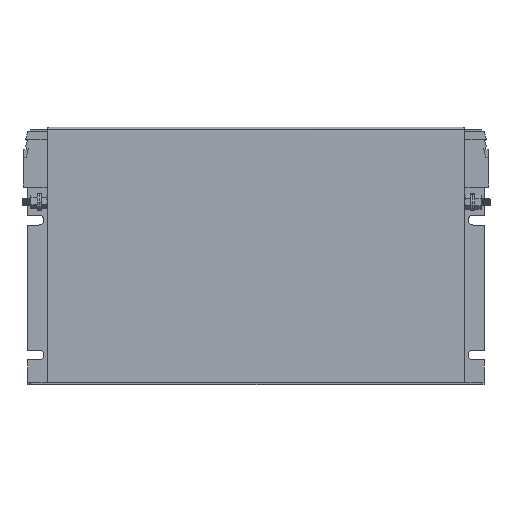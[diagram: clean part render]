
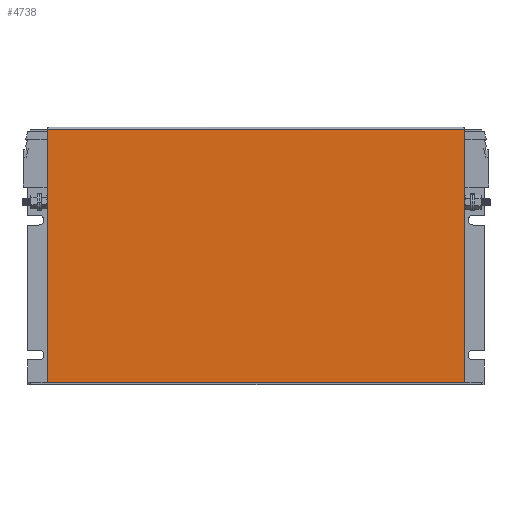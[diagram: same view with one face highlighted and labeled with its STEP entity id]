
A CAD part, top view. The second image highlights one B-rep face of the part: STEP entity #4738.
In plain terms, the highlighted planar face has unit normal (0, 0, 1).
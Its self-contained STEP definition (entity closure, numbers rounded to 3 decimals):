
#1413 = LINE ( 'NONE', #2040, #2822 ) ;
#2040 = CARTESIAN_POINT ( 'NONE',  ( 292., 172., 1.5 ) ) ;
#2813 = CARTESIAN_POINT ( 'NONE',  ( 13., 172., 1.5 ) ) ;
#2816 = LINE ( 'NONE', #2838, #2850 ) ;
#2822 = VECTOR ( 'NONE', #2854, 1000. ) ;
#2832 = CARTESIAN_POINT ( 'NONE',  ( 292., 170.5, 1.5 ) ) ;
#2836 = DIRECTION ( 'NONE',  ( 0., -1., 0. ) ) ;
#2837 = VECTOR ( 'NONE', #2836, 1000. ) ;
#2838 = CARTESIAN_POINT ( 'NONE',  ( 13., 170.5, 1.5 ) ) ;
#2850 = VECTOR ( 'NONE', #2858, 1000. ) ;
#2854 = DIRECTION ( 'NONE',  ( 0., -1., 0. ) ) ;
#2858 = DIRECTION ( 'NONE',  ( -1., 0., 0. ) ) ;
#2880 = LINE ( 'NONE', #2813, #2837 ) ;
#2886 = CARTESIAN_POINT ( 'NONE',  ( 13., 170.5, 1.5 ) ) ;
#2971 = DIRECTION ( 'NONE',  ( 1., 0., 0. ) ) ;
#2972 = VECTOR ( 'NONE', #2971, 1000. ) ;
#2973 = CARTESIAN_POINT ( 'NONE',  ( 13., 1.5, 1.5 ) ) ;
#2974 = LINE ( 'NONE', #2973, #2972 ) ;
#2975 = CARTESIAN_POINT ( 'NONE',  ( 292., 1.5, 1.5 ) ) ;
#3070 = DIRECTION ( 'NONE',  ( -1., 0., 0. ) ) ;
#3071 = DIRECTION ( 'NONE',  ( 0., 0., -1. ) ) ;
#3072 = AXIS2_PLACEMENT_3D ( 'NONE', #3073, #3071, #3070 ) ;
#3073 = CARTESIAN_POINT ( 'NONE',  ( 13., 172., 1.5 ) ) ;
#3074 = PLANE ( 'NONE',  #3072 ) ;
#3075 = FACE_OUTER_BOUND ( 'NONE', #4769, .T. ) ;
#3099 = CARTESIAN_POINT ( 'NONE',  ( 13., 1.5, 1.5 ) ) ;
#4559 = ORIENTED_EDGE ( 'NONE', *, *, #4597, .T. ) ;
#4560 = ORIENTED_EDGE ( 'NONE', *, *, #4701, .T. ) ;
#4589 = EDGE_CURVE ( 'NONE', #4590, #4699, #1413, .T. ) ;
#4590 = VERTEX_POINT ( 'NONE', #2832 ) ;
#4591 = ORIENTED_EDGE ( 'NONE', *, *, #4592, .T. ) ;
#4592 = EDGE_CURVE ( 'NONE', #4590, #4596, #2816, .T. ) ;
#4596 = VERTEX_POINT ( 'NONE', #2886 ) ;
#4597 = EDGE_CURVE ( 'NONE', #4596, #4685, #2880, .T. ) ;
#4685 = VERTEX_POINT ( 'NONE', #3099 ) ;
#4699 = VERTEX_POINT ( 'NONE', #2975 ) ;
#4701 = EDGE_CURVE ( 'NONE', #4685, #4699, #2974, .T. ) ;
#4735 = ORIENTED_EDGE ( 'NONE', *, *, #4589, .F. ) ;
#4738 = ADVANCED_FACE ( 'NONE', ( #3075 ), #3074, .F. ) ;
#4769 = EDGE_LOOP ( 'NONE', ( #4735, #4591, #4559, #4560 ) ) ;
